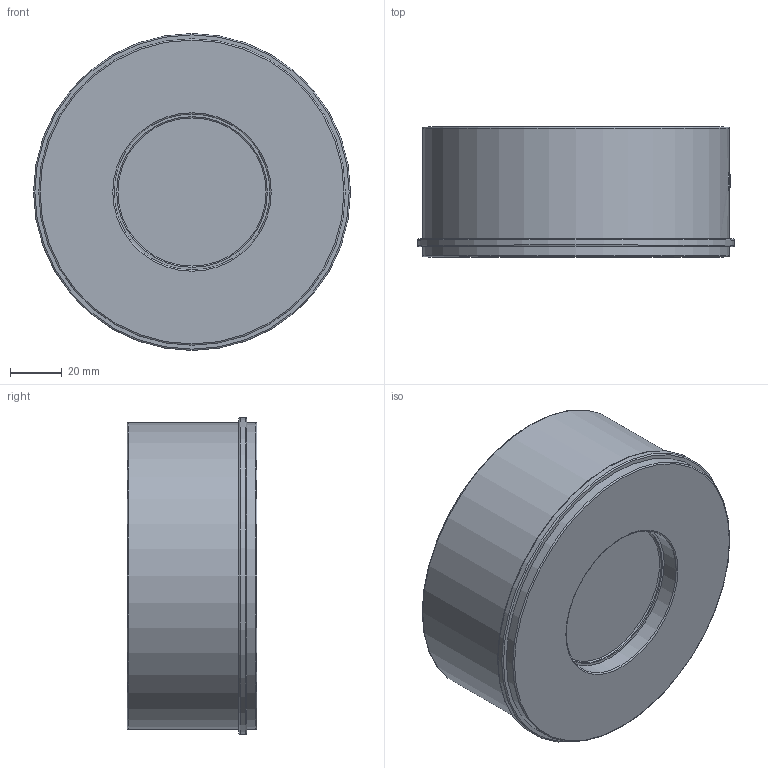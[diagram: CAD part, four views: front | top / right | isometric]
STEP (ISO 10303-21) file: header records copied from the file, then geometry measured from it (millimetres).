
FILE_DESCRIPTION(('STEP AP242'), '1');
FILE_NAME('VCS3232-Fb Êëàïàí îáðàòíûé ïðóæèííûé DN.ru Äó65 Ðó40', '', ('UNSPECIFIED'), ('UNSPECIFIED'), 'C3D Converter', 'C3D Toolkit', '');
FILE_SCHEMA(('AP242_MANAGED_MODEL_BASED_3D_ENGINEERING_MIM_LF { 1 0 10303 442 1 1 4 }'));
Length unit declared in the file: millimetre
Products named in the file (1): VCS3232-Fb
Bounding box: 122 x 50 x 122 mm (x, y, z)
Volume: 189088.4 mm3; surface area: 78687.2 mm2
Topology: 1 solids, 1 shells, 137 faces, 365 edges, 246 vertices
Faces by surface type: plane 53, extrusion 40, cylinder 29, torus 10, bspline 3, cone 2
Full cylindrical faces by diameter (mm): 14 x2, 26 x2, 58 x1, 60 x1, 68 x1, 69 x1, 86 x1, 108 x1, 118 x2, 122 x1
Entity records: 9513 total; most frequent: CARTESIAN_POINT 6243, ORIENTED_EDGE 674, DIRECTION 549, EDGE_CURVE 337, VERTEX_POINT 246, AXIS2_PLACEMENT_3D 201, EDGE_LOOP 189, FACE_BOUND 169
